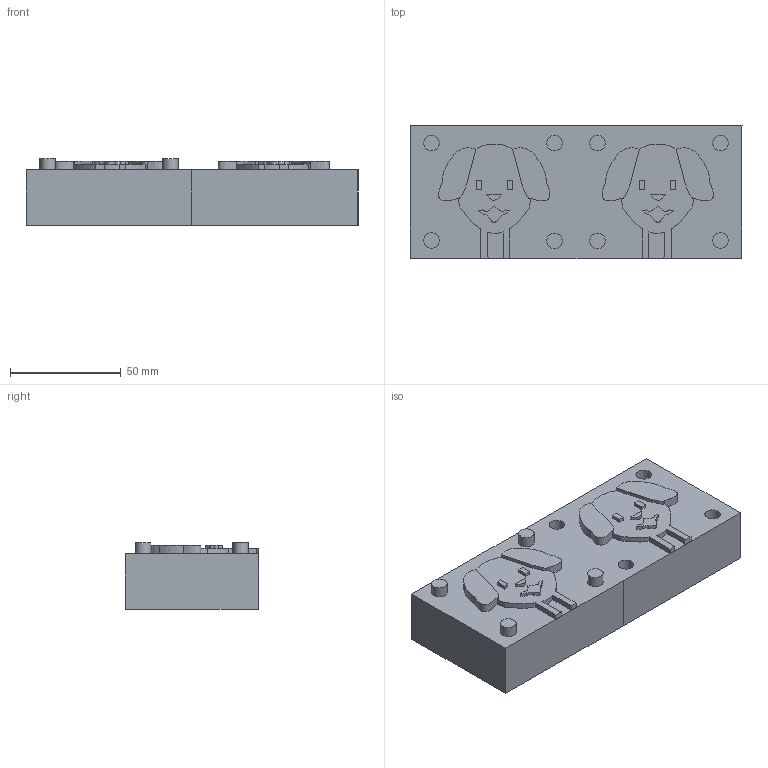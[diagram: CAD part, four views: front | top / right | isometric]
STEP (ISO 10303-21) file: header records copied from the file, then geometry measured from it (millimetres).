
FILE_DESCRIPTION(/* description */ (''),/* implementation_level */ '2;1');
FILE_NAME(/* name */ '5fb69d10c93f1716092a00ae',/* time_stamp */ '2020-11-19T16:28:02+00:00',/* author */ (''),/* organization */ (''),/* preprocessor_version */ 'ST-DEVELOPER v16.7',/* originating_system */ $,/* authorisation */ $);
FILE_SCHEMA (('AUTOMOTIVE_DESIGN {1 0 10303 214 3 1 1}'));
Length unit declared in the file: metre
Products named in the file (20): Assembly 1; Part 18; Part 19; Part 7; Part 9; Part 13; Part 10; Part 4; Part 5; Part 11; Part 1; Part 17; Part 6; Part 15; Part 14; Part 8; Part 16; Part 12; Part 3; Part 2
Assembly tree (19 placements, depth 2):
  Assembly 1
    Part 18
    Part 19
    Part 7
    Part 9
    Part 13
    Part 10
    Part 4
    Part 5
    Part 11
    Part 1
    Part 17
    Part 6
    Part 15
    Part 14
    Part 8
    Part 16
    Part 12
    Part 3
    Part 2
Bounding box: 150 x 60.16 x 30 mm (x, y, z)
Volume: 234321.6 mm3; surface area: 38516.9 mm2
Topology: 19 solids, 19 shells, 182 faces, 420 edges, 280 vertices
Faces by surface type: plane 108, bspline 60, cylinder 14
Full cylindrical faces by diameter (mm): 7 x8
Entity records: 5740 total; most frequent: CARTESIAN_POINT 1578, ORIENTED_EDGE 824, DIRECTION 604, EDGE_CURVE 412, VERTEX_POINT 280, LINE 264, VECTOR 264, EDGE_LOOP 210
